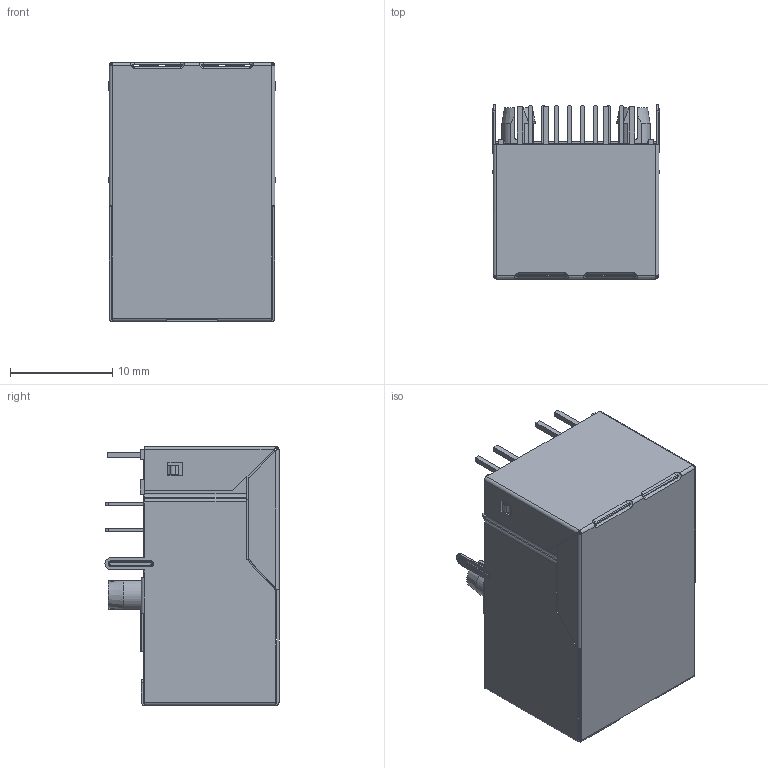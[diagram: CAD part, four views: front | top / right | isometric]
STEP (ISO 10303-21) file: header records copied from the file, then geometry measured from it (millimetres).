
FILE_DESCRIPTION((''),'2;1');
FILE_NAME('DGKYD311B083AB2A4DBN','2023-12-08T09:06:50',('Administrator'),(''),'CREO PARAMETRIC BY PTC INC, 2019010','CREO PARAMETRIC BY PTC INC, 2019010','');
FILE_SCHEMA(('CONFIG_CONTROL_DESIGN'));
Length unit declared in the file: millimetre
Products named in the file (1): DGKYD311B083AB2A4DBN
Bounding box: 16.4 x 17 x 25.3 mm (x, y, z)
Volume: 2899.1 mm3; surface area: 7934.4 mm2
Topology: 2 solids, 13 shells, 1729 faces, 5184 edges, 3363 vertices
Faces by surface type: plane 1332, cylinder 343, torus 24, extrusion 16, sphere 10, cone 4
Entity records: 59002 total; most frequent: CARTESIAN_POINT 11709, ORIENTED_EDGE 10348, DIRECTION 9329, EDGE_CURVE 5174, VECTOR 4141, LINE 4125, VERTEX_POINT 3363, AXIS2_PLACEMENT_3D 2594
